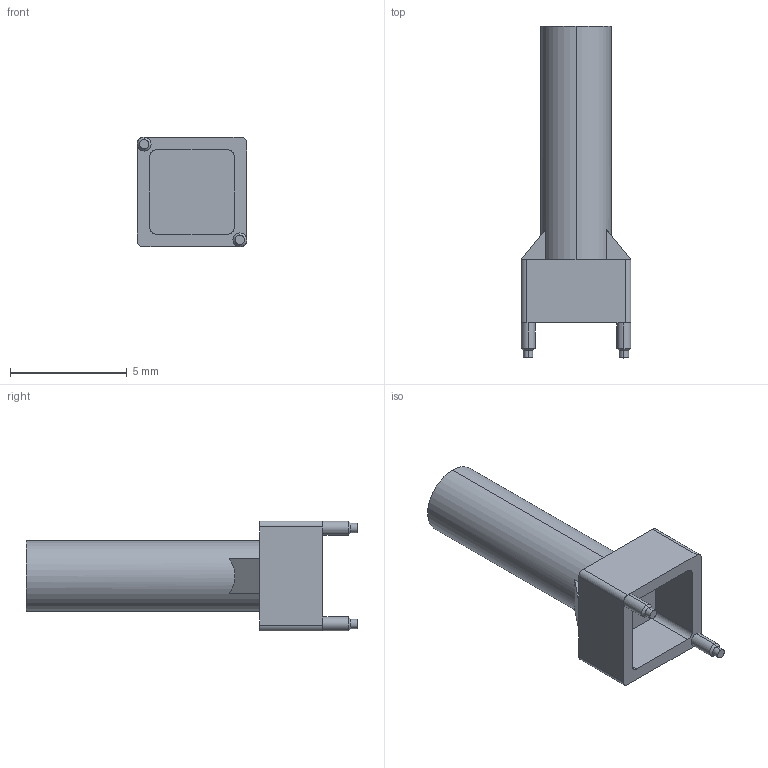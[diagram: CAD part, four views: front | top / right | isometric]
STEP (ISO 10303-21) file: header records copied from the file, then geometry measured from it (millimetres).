
FILE_DESCRIPTION (( 'STEP AP214' ), '1' );
FILE_NAME ('VLP-500-F.STEP', '2017-01-24T18:41:20', ( '' ), ( '' ), 'SwSTEP 2.0', 'SolidWorks 2016', '' );
FILE_SCHEMA (( 'AUTOMOTIVE_DESIGN' ));
Length unit declared in the file: millimetre
Products named in the file (1): VLP-500-F
Bounding box: 4.7 x 14.2 x 4.7 mm (x, y, z)
Volume: 104.1 mm3; surface area: 224.5 mm2
Topology: 1 solids, 1 shells, 45 faces, 108 edges, 66 vertices
Faces by surface type: plane 23, cylinder 18, cone 4
Entity records: 1332 total; most frequent: DIRECTION 238, CARTESIAN_POINT 226, ORIENTED_EDGE 216, EDGE_CURVE 108, AXIS2_PLACEMENT_3D 86, LINE 66, VECTOR 66, VERTEX_POINT 66
